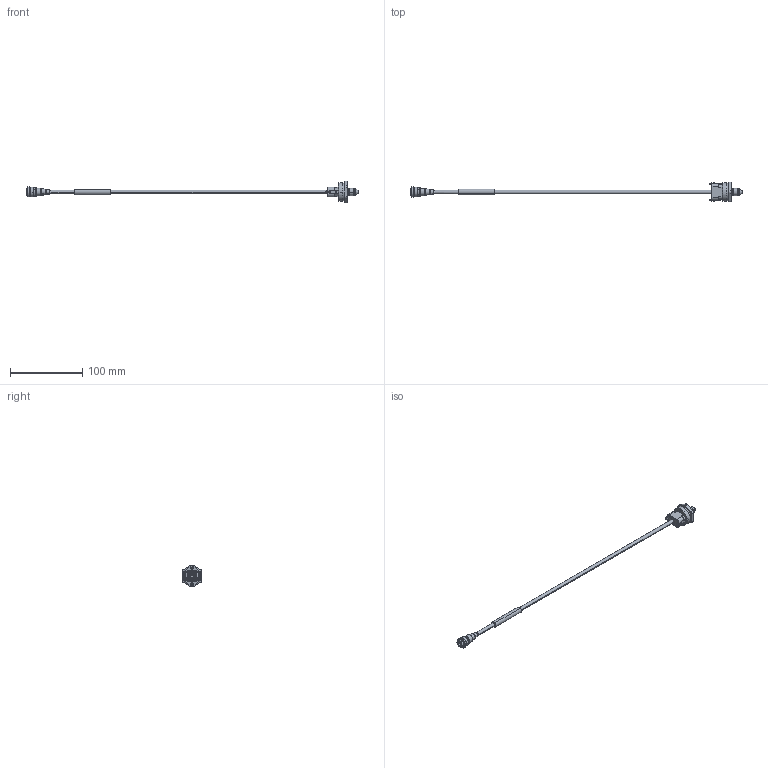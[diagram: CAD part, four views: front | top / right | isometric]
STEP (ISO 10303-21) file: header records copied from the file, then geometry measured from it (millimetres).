
FILE_DESCRIPTION(('CATIA V5 STEP Exchange'),'2;1');
FILE_NAME('\\bosch.com\dfsrb\DfsDE\DIV\BEG\MSD\Gruppen\MSDP\01_Austausch\!Limitierte Beschäftigte\Praktikanten\HnA\3D Modelle Katalog\Neu\Sensoren\Druck in Flüssigkeiten\PSC-260.stp','2014-01-16T13:54:40+00:00',('none'),('none'),'CATIA Version 5 Release 19 SP 9 (IN-10)','CATIA V5 STEP AP214','none');
FILE_SCHEMA(('AUTOMOTIVE_DESIGN { 1 0 10303 214 1 1 1 1 }'));
Length unit declared in the file: millimetre
Products named in the file (1): PSC-260
Bounding box: 458.15 x 27 x 30.25 mm (x, y, z)
Volume: 22987.5 mm3; surface area: 12819.7 mm2
Topology: 1 solids, 1 shells, 347 faces, 911 edges, 567 vertices
Faces by surface type: cylinder 152, plane 107, torus 30, sphere 29, cone 19, bspline 4, extrusion 4, revolution 2
Entity records: 11290 total; most frequent: CARTESIAN_POINT 2641, ORIENTED_EDGE 1772, DIRECTION 1367, EDGE_CURVE 886, AXIS2_PLACEMENT_3D 674, VERTEX_POINT 567, VECTOR 410, LINE 406
